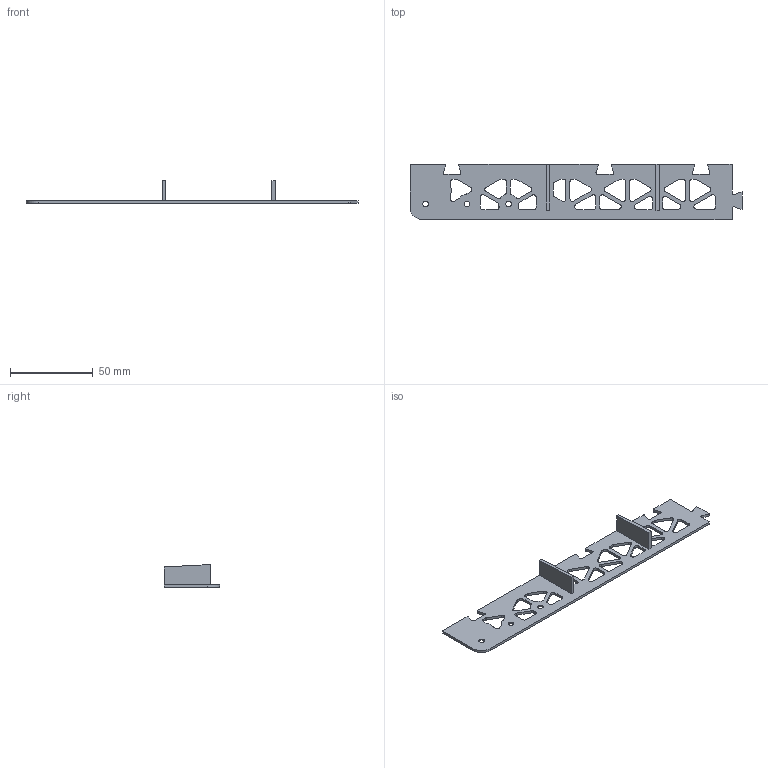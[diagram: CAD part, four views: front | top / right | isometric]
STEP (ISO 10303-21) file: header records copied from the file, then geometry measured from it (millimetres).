
FILE_DESCRIPTION(('Open CASCADE Model'),'2;1');
FILE_NAME('cover_FL','2026-11-19T00:45:42',('Author'),('Open CASCADE'), 'Open CASCADE STEP processor 8.0','build123d','Unknown');
FILE_SCHEMA(('AUTOMOTIVE_DESIGN { 1 0 10303 214 1 1 1 1 }'));
Length unit declared in the file: millimetre
Products named in the file (1): cover_FL
Bounding box: 200.07 x 33.27 x 13.83 mm (x, y, z)
Volume: 8922.1 mm3; surface area: 12879.4 mm2
Topology: 1 solids, 1 shells, 195 faces, 573 edges, 381 vertices
Faces by surface type: plane 96, cylinder 96, cone 3
Full cylindrical faces by diameter (mm): 3.4 x3, 10.5 x1
Entity records: 14266 total; most frequent: CARTESIAN_POINT 3752, DIRECTION 1760, ORIENTED_EDGE 1146, PCURVE 1146, DEFINITIONAL_REPRESENTATION 1146, LINE 968, VECTOR 968, EDGE_CURVE 573
